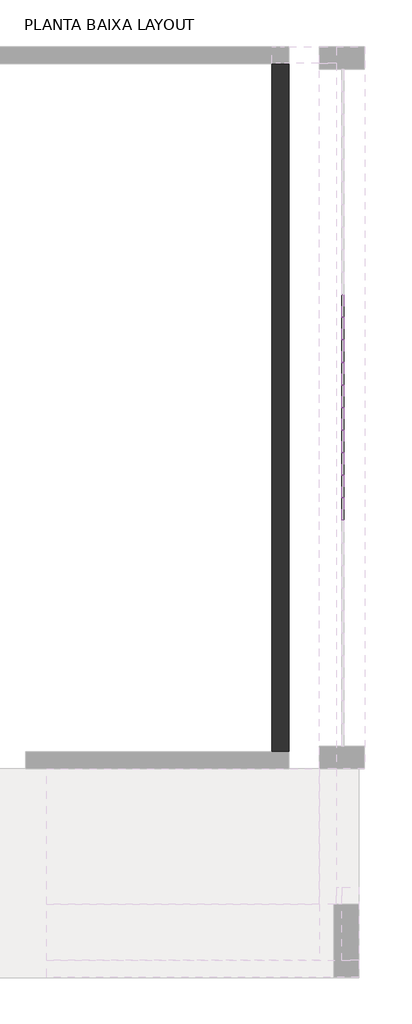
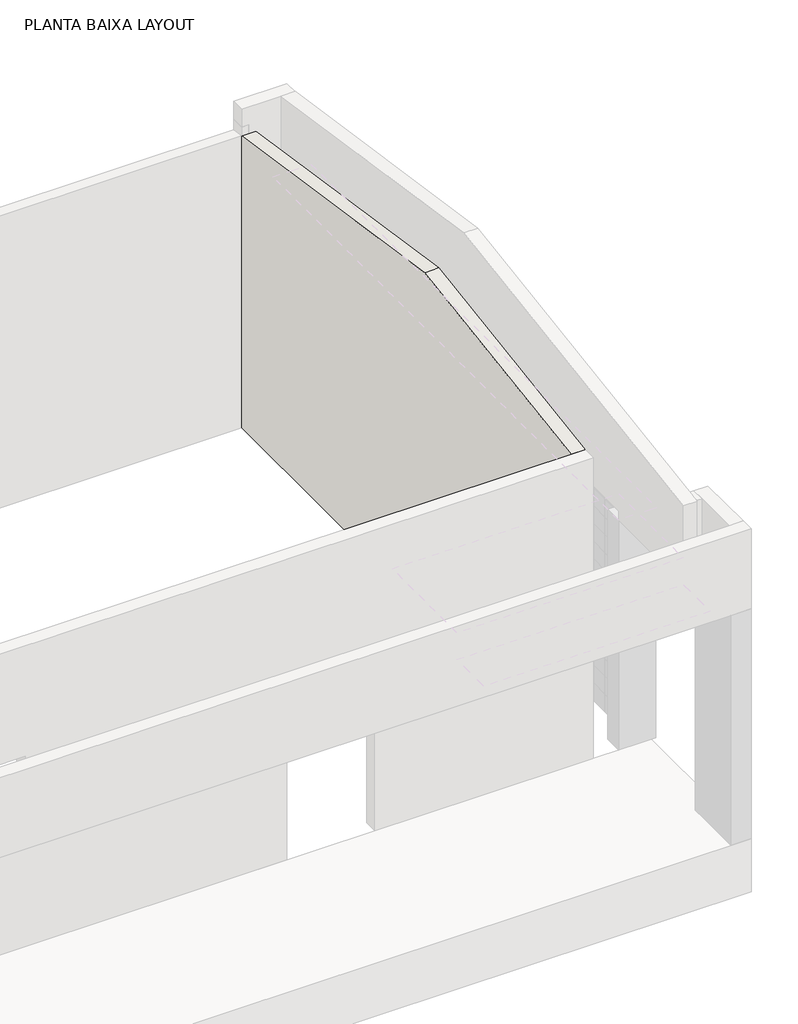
# One storey, part 4 of 6: 122 plates, 1 wall.
"""IFC4 building model written with IfcOpenShell, lengths in millimetres."""

from ifc_helpers import new_model, si_unit, origin, place, context, project, spatial, faceted_brep, transform, mapped, element, save
from components import system_panel_vidro_2cm_d02c202c

model = new_model("IFC4")

# Units and contexts
model_context = context("Model", 3, world=origin())
ifc_project = project(units=[si_unit("LENGTHUNIT", "METRE", prefix="MILLI")], contexts=[model_context])

# Site, building, storey
site = spatial("IfcSite", under=ifc_project)
building = spatial("IfcBuilding", under=site)
storey = spatial("IfcBuildingStorey", under=building, Name="PLANTA BAIXA LAYOUT", Elevation=0.0)

# Plates
placement = place(None, origin())
system_panel_vidro_2cm_shape = system_panel_vidro_2cm_d02c202c(model_context)
element("IfcPlate", 1, ObjectType="System Panel : Vidro 2cm", at=placement, inside=storey, context=model_context, shape_type="MappedRepresentation", body=[
    mapped(system_panel_vidro_2cm_shape, transform((17877.6165906, -4817.0637549, 0.0), x_axis=(0.0, 1.0, 0.0), y_axis=(-1.0, 0.0, 0.0), z_axis=(0.0, 0.0, 1.0))),
])
element("IfcPlate", 2, ObjectType="System Panel : Vidro 2cm", at=placement, inside=storey, context=model_context, shape_type="MappedRepresentation", body=[
    mapped(system_panel_vidro_2cm_shape, transform((17877.6165906, -4617.0637549, 0.0), x_axis=(0.0, 1.0, 0.0), y_axis=(-1.0, 0.0, 0.0), z_axis=(0.0, 0.0, 1.0))),
])
element("IfcPlate", 3, ObjectType="System Panel : Vidro 2cm", at=placement, inside=storey, context=model_context, shape_type="MappedRepresentation", body=[
    mapped(system_panel_vidro_2cm_shape, transform((17877.6165906, -4417.0637549, 0.0), x_axis=(0.0, 1.0, 0.0), y_axis=(-1.0, 0.0, 0.0), z_axis=(0.0, 0.0, 1.0))),
])
element("IfcPlate", 4, ObjectType="System Panel : Vidro 2cm", at=placement, inside=storey, context=model_context, shape_type="MappedRepresentation", body=[
    mapped(system_panel_vidro_2cm_shape, transform((17877.6165906, -4217.0637549, 0.0), x_axis=(0.0, 1.0, 0.0), y_axis=(-1.0, 0.0, 0.0), z_axis=(0.0, 0.0, 1.0))),
])
element("IfcPlate", 5, ObjectType="System Panel : Vidro 2cm", at=placement, inside=storey, context=model_context, shape_type="MappedRepresentation", body=[
    mapped(system_panel_vidro_2cm_shape, transform((17877.6165906, -4017.0637549, 0.0), x_axis=(0.0, 1.0, 0.0), y_axis=(-1.0, 0.0, 0.0), z_axis=(0.0, 0.0, 1.0))),
])
element("IfcPlate", 6, ObjectType="System Panel : Vidro 2cm", at=placement, inside=storey, context=model_context, shape_type="MappedRepresentation", body=[
    mapped(system_panel_vidro_2cm_shape, transform((17877.6165906, -3817.0637549, 0.0), x_axis=(0.0, 1.0, 0.0), y_axis=(-1.0, 0.0, 0.0), z_axis=(0.0, 0.0, 1.0))),
])
element("IfcPlate", 7, ObjectType="System Panel : Vidro 2cm", at=placement, inside=storey, context=model_context, shape_type="MappedRepresentation", body=[
    mapped(system_panel_vidro_2cm_shape, transform((17877.6165906, -3617.0637549, 0.0), x_axis=(0.0, 1.0, 0.0), y_axis=(-1.0, 0.0, 0.0), z_axis=(0.0, 0.0, 1.0))),
])
element("IfcPlate", 8, ObjectType="System Panel : Vidro 2cm", at=placement, inside=storey, context=model_context, shape_type="MappedRepresentation", body=[
    mapped(system_panel_vidro_2cm_shape, transform((17877.6165906, -3417.0637549, 0.0), x_axis=(0.0, 1.0, 0.0), y_axis=(-1.0, 0.0, 0.0), z_axis=(0.0, 0.0, 1.0))),
])
element("IfcPlate", 9, ObjectType="System Panel : Vidro 2cm", at=placement, inside=storey, context=model_context, shape_type="MappedRepresentation", body=[
    mapped(system_panel_vidro_2cm_shape, transform((17877.6165906, -3217.0637549, 0.0), x_axis=(0.0, 1.0, 0.0), y_axis=(-1.0, 0.0, 0.0), z_axis=(0.0, 0.0, 1.0))),
])
element("IfcPlate", 10, ObjectType="System Panel : Vidro 2cm", at=placement, inside=storey, context=model_context, shape_type="MappedRepresentation", body=[
    mapped(system_panel_vidro_2cm_shape, transform((17877.6165906, -3017.0637549, 0.0), x_axis=(0.0, 1.0, 0.0), y_axis=(-1.0, 0.0, 0.0), z_axis=(0.0, 0.0, 1.0))),
])
element("IfcPlate", 11, ObjectType="System Panel : Vidro 2cm", at=placement, inside=storey, context=model_context, shape_type="MappedRepresentation", body=[
    mapped(system_panel_vidro_2cm_shape, transform((17877.6165906, -4817.0637549, 200.0), x_axis=(0.0, 1.0, 0.0), y_axis=(-1.0, 0.0, 0.0), z_axis=(0.0, 0.0, 1.0))),
])
element("IfcPlate", 12, ObjectType="System Panel : Vidro 2cm", at=placement, inside=storey, context=model_context, shape_type="MappedRepresentation", body=[
    mapped(system_panel_vidro_2cm_shape, transform((17877.6165906, -4617.0637549, 200.0), x_axis=(0.0, 1.0, 0.0), y_axis=(-1.0, 0.0, 0.0), z_axis=(0.0, 0.0, 1.0))),
])
element("IfcPlate", 13, ObjectType="System Panel : Vidro 2cm", at=placement, inside=storey, context=model_context, shape_type="MappedRepresentation", body=[
    mapped(system_panel_vidro_2cm_shape, transform((17877.6165906, -4417.0637549, 200.0), x_axis=(0.0, 1.0, 0.0), y_axis=(-1.0, 0.0, 0.0), z_axis=(0.0, 0.0, 1.0))),
])
element("IfcPlate", 14, ObjectType="System Panel : Vidro 2cm", at=placement, inside=storey, context=model_context, shape_type="MappedRepresentation", body=[
    mapped(system_panel_vidro_2cm_shape, transform((17877.6165906, -4217.0637549, 200.0), x_axis=(0.0, 1.0, 0.0), y_axis=(-1.0, 0.0, 0.0), z_axis=(0.0, 0.0, 1.0))),
])
element("IfcPlate", 15, ObjectType="System Panel : Vidro 2cm", at=placement, inside=storey, context=model_context, shape_type="MappedRepresentation", body=[
    mapped(system_panel_vidro_2cm_shape, transform((17877.6165906, -4017.0637549, 200.0), x_axis=(0.0, 1.0, 0.0), y_axis=(-1.0, 0.0, 0.0), z_axis=(0.0, 0.0, 1.0))),
])
element("IfcPlate", 16, ObjectType="System Panel : Vidro 2cm", at=placement, inside=storey, context=model_context, shape_type="MappedRepresentation", body=[
    mapped(system_panel_vidro_2cm_shape, transform((17877.6165906, -3817.0637549, 200.0), x_axis=(0.0, 1.0, 0.0), y_axis=(-1.0, 0.0, 0.0), z_axis=(0.0, 0.0, 1.0))),
])
element("IfcPlate", 17, ObjectType="System Panel : Vidro 2cm", at=placement, inside=storey, context=model_context, shape_type="MappedRepresentation", body=[
    mapped(system_panel_vidro_2cm_shape, transform((17877.6165906, -3617.0637549, 200.0), x_axis=(0.0, 1.0, 0.0), y_axis=(-1.0, 0.0, 0.0), z_axis=(0.0, 0.0, 1.0))),
])
element("IfcPlate", 18, ObjectType="System Panel : Vidro 2cm", at=placement, inside=storey, context=model_context, shape_type="MappedRepresentation", body=[
    mapped(system_panel_vidro_2cm_shape, transform((17877.6165906, -3417.0637549, 200.0), x_axis=(0.0, 1.0, 0.0), y_axis=(-1.0, 0.0, 0.0), z_axis=(0.0, 0.0, 1.0))),
])
element("IfcPlate", 19, ObjectType="System Panel : Vidro 2cm", at=placement, inside=storey, context=model_context, shape_type="MappedRepresentation", body=[
    mapped(system_panel_vidro_2cm_shape, transform((17877.6165906, -4817.0637549, 400.0), x_axis=(0.0, 1.0, 0.0), y_axis=(-1.0, 0.0, 0.0), z_axis=(0.0, 0.0, 1.0))),
])
element("IfcPlate", 20, ObjectType="System Panel : Vidro 2cm", at=placement, inside=storey, context=model_context, shape_type="MappedRepresentation", body=[
    mapped(system_panel_vidro_2cm_shape, transform((17877.6165906, -4617.0637549, 400.0), x_axis=(0.0, 1.0, 0.0), y_axis=(-1.0, 0.0, 0.0), z_axis=(0.0, 0.0, 1.0))),
])
element("IfcPlate", 21, ObjectType="System Panel : Vidro 2cm", at=placement, inside=storey, context=model_context, shape_type="MappedRepresentation", body=[
    mapped(system_panel_vidro_2cm_shape, transform((17877.6165906, -4417.0637549, 400.0), x_axis=(0.0, 1.0, 0.0), y_axis=(-1.0, 0.0, 0.0), z_axis=(0.0, 0.0, 1.0))),
])
element("IfcPlate", 22, ObjectType="System Panel : Vidro 2cm", at=placement, inside=storey, context=model_context, shape_type="MappedRepresentation", body=[
    mapped(system_panel_vidro_2cm_shape, transform((17877.6165906, -4217.0637549, 400.0), x_axis=(0.0, 1.0, 0.0), y_axis=(-1.0, 0.0, 0.0), z_axis=(0.0, 0.0, 1.0))),
])
element("IfcPlate", 23, ObjectType="System Panel : Vidro 2cm", at=placement, inside=storey, context=model_context, shape_type="MappedRepresentation", body=[
    mapped(system_panel_vidro_2cm_shape, transform((17877.6165906, -4017.0637549, 400.0), x_axis=(0.0, 1.0, 0.0), y_axis=(-1.0, 0.0, 0.0), z_axis=(0.0, 0.0, 1.0))),
])
element("IfcPlate", 24, ObjectType="System Panel : Vidro 2cm", at=placement, inside=storey, context=model_context, shape_type="MappedRepresentation", body=[
    mapped(system_panel_vidro_2cm_shape, transform((17877.6165906, -5617.0637549, 600.0), x_axis=(0.0, 1.0, 0.0), y_axis=(-1.0, 0.0, 0.0), z_axis=(0.0, 0.0, 1.0))),
])
element("IfcPlate", 25, ObjectType="System Panel : Vidro 2cm", at=placement, inside=storey, context=model_context, shape_type="MappedRepresentation", body=[
    mapped(system_panel_vidro_2cm_shape, transform((17877.6165906, -5417.0637549, 600.0), x_axis=(0.0, 1.0, 0.0), y_axis=(-1.0, 0.0, 0.0), z_axis=(0.0, 0.0, 1.0))),
])
element("IfcPlate", 26, ObjectType="System Panel : Vidro 2cm", at=placement, inside=storey, context=model_context, shape_type="MappedRepresentation", body=[
    mapped(system_panel_vidro_2cm_shape, transform((17877.6165906, -5217.0637549, 600.0), x_axis=(0.0, 1.0, 0.0), y_axis=(-1.0, 0.0, 0.0), z_axis=(0.0, 0.0, 1.0))),
])
element("IfcPlate", 27, ObjectType="System Panel : Vidro 2cm", at=placement, inside=storey, context=model_context, shape_type="MappedRepresentation", body=[
    mapped(system_panel_vidro_2cm_shape, transform((17877.6165906, -5017.0637549, 600.0), x_axis=(0.0, 1.0, 0.0), y_axis=(-1.0, 0.0, 0.0), z_axis=(0.0, 0.0, 1.0))),
])
element("IfcPlate", 28, ObjectType="System Panel : Vidro 2cm", at=placement, inside=storey, context=model_context, shape_type="MappedRepresentation", body=[
    mapped(system_panel_vidro_2cm_shape, transform((17877.6165906, -4817.0637549, 600.0), x_axis=(0.0, 1.0, 0.0), y_axis=(-1.0, 0.0, 0.0), z_axis=(0.0, 0.0, 1.0))),
])
element("IfcPlate", 29, ObjectType="System Panel : Vidro 2cm", at=placement, inside=storey, context=model_context, shape_type="MappedRepresentation", body=[
    mapped(system_panel_vidro_2cm_shape, transform((17877.6165906, -4617.0637549, 600.0), x_axis=(0.0, 1.0, 0.0), y_axis=(-1.0, 0.0, 0.0), z_axis=(0.0, 0.0, 1.0))),
])
element("IfcPlate", 30, ObjectType="System Panel : Vidro 2cm", at=placement, inside=storey, context=model_context, shape_type="MappedRepresentation", body=[
    mapped(system_panel_vidro_2cm_shape, transform((17877.6165906, -4417.0637549, 600.0), x_axis=(0.0, 1.0, 0.0), y_axis=(-1.0, 0.0, 0.0), z_axis=(0.0, 0.0, 1.0))),
])
element("IfcPlate", 31, ObjectType="System Panel : Vidro 2cm", at=placement, inside=storey, context=model_context, shape_type="MappedRepresentation", body=[
    mapped(system_panel_vidro_2cm_shape, transform((17877.6165906, -4217.0637549, 600.0), x_axis=(0.0, 1.0, 0.0), y_axis=(-1.0, 0.0, 0.0), z_axis=(0.0, 0.0, 1.0))),
])
element("IfcPlate", 32, ObjectType="System Panel : Vidro 2cm", at=placement, inside=storey, context=model_context, shape_type="MappedRepresentation", body=[
    mapped(system_panel_vidro_2cm_shape, transform((17877.6165906, -4017.0637549, 600.0), x_axis=(0.0, 1.0, 0.0), y_axis=(-1.0, 0.0, 0.0), z_axis=(0.0, 0.0, 1.0))),
])
element("IfcPlate", 33, ObjectType="System Panel : Vidro 2cm", at=placement, inside=storey, context=model_context, shape_type="MappedRepresentation", body=[
    mapped(system_panel_vidro_2cm_shape, transform((17877.6165906, -5817.0637549, 800.0), x_axis=(0.0, 1.0, 0.0), y_axis=(-1.0, 0.0, 0.0), z_axis=(0.0, 0.0, 1.0))),
])
element("IfcPlate", 34, ObjectType="System Panel : Vidro 2cm", at=placement, inside=storey, context=model_context, shape_type="MappedRepresentation", body=[
    mapped(system_panel_vidro_2cm_shape, transform((17877.6165906, -5617.0637549, 800.0), x_axis=(0.0, 1.0, 0.0), y_axis=(-1.0, 0.0, 0.0), z_axis=(0.0, 0.0, 1.0))),
])
element("IfcPlate", 35, ObjectType="System Panel : Vidro 2cm", at=placement, inside=storey, context=model_context, shape_type="MappedRepresentation", body=[
    mapped(system_panel_vidro_2cm_shape, transform((17877.6165906, -5417.0637549, 800.0), x_axis=(0.0, 1.0, 0.0), y_axis=(-1.0, 0.0, 0.0), z_axis=(0.0, 0.0, 1.0))),
])
element("IfcPlate", 36, ObjectType="System Panel : Vidro 2cm", at=placement, inside=storey, context=model_context, shape_type="MappedRepresentation", body=[
    mapped(system_panel_vidro_2cm_shape, transform((17877.6165906, -5217.0637549, 800.0), x_axis=(0.0, 1.0, 0.0), y_axis=(-1.0, 0.0, 0.0), z_axis=(0.0, 0.0, 1.0))),
])
element("IfcPlate", 37, ObjectType="System Panel : Vidro 2cm", at=placement, inside=storey, context=model_context, shape_type="MappedRepresentation", body=[
    mapped(system_panel_vidro_2cm_shape, transform((17877.6165906, -5017.0637549, 800.0), x_axis=(0.0, 1.0, 0.0), y_axis=(-1.0, 0.0, 0.0), z_axis=(0.0, 0.0, 1.0))),
])
element("IfcPlate", 38, ObjectType="System Panel : Vidro 2cm", at=placement, inside=storey, context=model_context, shape_type="MappedRepresentation", body=[
    mapped(system_panel_vidro_2cm_shape, transform((17877.6165906, -4817.0637549, 800.0), x_axis=(0.0, 1.0, 0.0), y_axis=(-1.0, 0.0, 0.0), z_axis=(0.0, 0.0, 1.0))),
])
element("IfcPlate", 39, ObjectType="System Panel : Vidro 2cm", at=placement, inside=storey, context=model_context, shape_type="MappedRepresentation", body=[
    mapped(system_panel_vidro_2cm_shape, transform((17877.6165906, -4617.0637549, 800.0), x_axis=(0.0, 1.0, 0.0), y_axis=(-1.0, 0.0, 0.0), z_axis=(0.0, 0.0, 1.0))),
])
element("IfcPlate", 40, ObjectType="System Panel : Vidro 2cm", at=placement, inside=storey, context=model_context, shape_type="MappedRepresentation", body=[
    mapped(system_panel_vidro_2cm_shape, transform((17877.6165906, -4417.0637549, 800.0), x_axis=(0.0, 1.0, 0.0), y_axis=(-1.0, 0.0, 0.0), z_axis=(0.0, 0.0, 1.0))),
])
element("IfcPlate", 41, ObjectType="System Panel : Vidro 2cm", at=placement, inside=storey, context=model_context, shape_type="MappedRepresentation", body=[
    mapped(system_panel_vidro_2cm_shape, transform((17877.6165906, -4217.0637549, 800.0), x_axis=(0.0, 1.0, 0.0), y_axis=(-1.0, 0.0, 0.0), z_axis=(0.0, 0.0, 1.0))),
])
element("IfcPlate", 42, ObjectType="System Panel : Vidro 2cm", at=placement, inside=storey, context=model_context, shape_type="MappedRepresentation", body=[
    mapped(system_panel_vidro_2cm_shape, transform((17877.6165906, -4017.0637549, 800.0), x_axis=(0.0, 1.0, 0.0), y_axis=(-1.0, 0.0, 0.0), z_axis=(0.0, 0.0, 1.0))),
])
element("IfcPlate", 43, ObjectType="System Panel : Vidro 2cm", at=placement, inside=storey, context=model_context, shape_type="MappedRepresentation", body=[
    mapped(system_panel_vidro_2cm_shape, transform((17877.6165906, -5817.0637549, 1000.0), x_axis=(0.0, 1.0, 0.0), y_axis=(-1.0, 0.0, 0.0), z_axis=(0.0, 0.0, 1.0))),
])
element("IfcPlate", 44, ObjectType="System Panel : Vidro 2cm", at=placement, inside=storey, context=model_context, shape_type="MappedRepresentation", body=[
    mapped(system_panel_vidro_2cm_shape, transform((17877.6165906, -5617.0637549, 1000.0), x_axis=(0.0, 1.0, 0.0), y_axis=(-1.0, 0.0, 0.0), z_axis=(0.0, 0.0, 1.0))),
])
element("IfcPlate", 45, ObjectType="System Panel : Vidro 2cm", at=placement, inside=storey, context=model_context, shape_type="MappedRepresentation", body=[
    mapped(system_panel_vidro_2cm_shape, transform((17877.6165906, -5417.0637549, 1000.0), x_axis=(0.0, 1.0, 0.0), y_axis=(-1.0, 0.0, 0.0), z_axis=(0.0, 0.0, 1.0))),
])
element("IfcPlate", 46, ObjectType="System Panel : Vidro 2cm", at=placement, inside=storey, context=model_context, shape_type="MappedRepresentation", body=[
    mapped(system_panel_vidro_2cm_shape, transform((17877.6165906, -5217.0637549, 1000.0), x_axis=(0.0, 1.0, 0.0), y_axis=(-1.0, 0.0, 0.0), z_axis=(0.0, 0.0, 1.0))),
])
element("IfcPlate", 47, ObjectType="System Panel : Vidro 2cm", at=placement, inside=storey, context=model_context, shape_type="MappedRepresentation", body=[
    mapped(system_panel_vidro_2cm_shape, transform((17877.6165906, -5017.0637549, 1000.0), x_axis=(0.0, 1.0, 0.0), y_axis=(-1.0, 0.0, 0.0), z_axis=(0.0, 0.0, 1.0))),
])
element("IfcPlate", 48, ObjectType="System Panel : Vidro 2cm", at=placement, inside=storey, context=model_context, shape_type="MappedRepresentation", body=[
    mapped(system_panel_vidro_2cm_shape, transform((17877.6165906, -4817.0637549, 1000.0), x_axis=(0.0, 1.0, 0.0), y_axis=(-1.0, 0.0, 0.0), z_axis=(0.0, 0.0, 1.0))),
])
element("IfcPlate", 49, ObjectType="System Panel : Vidro 2cm", at=placement, inside=storey, context=model_context, shape_type="MappedRepresentation", body=[
    mapped(system_panel_vidro_2cm_shape, transform((17877.6165906, -4617.0637549, 1000.0), x_axis=(0.0, 1.0, 0.0), y_axis=(-1.0, 0.0, 0.0), z_axis=(0.0, 0.0, 1.0))),
])
element("IfcPlate", 50, ObjectType="System Panel : Vidro 2cm", at=placement, inside=storey, context=model_context, shape_type="MappedRepresentation", body=[
    mapped(system_panel_vidro_2cm_shape, transform((17877.6165906, -4417.0637549, 1000.0), x_axis=(0.0, 1.0, 0.0), y_axis=(-1.0, 0.0, 0.0), z_axis=(0.0, 0.0, 1.0))),
])
element("IfcPlate", 51, ObjectType="System Panel : Vidro 2cm", at=placement, inside=storey, context=model_context, shape_type="MappedRepresentation", body=[
    mapped(system_panel_vidro_2cm_shape, transform((17877.6165906, -4217.0637549, 1000.0), x_axis=(0.0, 1.0, 0.0), y_axis=(-1.0, 0.0, 0.0), z_axis=(0.0, 0.0, 1.0))),
])
element("IfcPlate", 52, ObjectType="System Panel : Vidro 2cm", at=placement, inside=storey, context=model_context, shape_type="MappedRepresentation", body=[
    mapped(system_panel_vidro_2cm_shape, transform((17877.6165906, -4017.0637549, 1000.0), x_axis=(0.0, 1.0, 0.0), y_axis=(-1.0, 0.0, 0.0), z_axis=(0.0, 0.0, 1.0))),
])
element("IfcPlate", 53, ObjectType="System Panel : Vidro 2cm", at=placement, inside=storey, context=model_context, shape_type="MappedRepresentation", body=[
    mapped(system_panel_vidro_2cm_shape, transform((17877.6165906, -5817.0637549, 1200.0), x_axis=(0.0, 1.0, 0.0), y_axis=(-1.0, 0.0, 0.0), z_axis=(0.0, 0.0, 1.0))),
])
element("IfcPlate", 54, ObjectType="System Panel : Vidro 2cm", at=placement, inside=storey, context=model_context, shape_type="MappedRepresentation", body=[
    mapped(system_panel_vidro_2cm_shape, transform((17877.6165906, -5617.0637549, 1200.0), x_axis=(0.0, 1.0, 0.0), y_axis=(-1.0, 0.0, 0.0), z_axis=(0.0, 0.0, 1.0))),
])
element("IfcPlate", 55, ObjectType="System Panel : Vidro 2cm", at=placement, inside=storey, context=model_context, shape_type="MappedRepresentation", body=[
    mapped(system_panel_vidro_2cm_shape, transform((17877.6165906, -5417.0637549, 1200.0), x_axis=(0.0, 1.0, 0.0), y_axis=(-1.0, 0.0, 0.0), z_axis=(0.0, 0.0, 1.0))),
])
element("IfcPlate", 56, ObjectType="System Panel : Vidro 2cm", at=placement, inside=storey, context=model_context, shape_type="MappedRepresentation", body=[
    mapped(system_panel_vidro_2cm_shape, transform((17877.6165906, -5217.0637549, 1200.0), x_axis=(0.0, 1.0, 0.0), y_axis=(-1.0, 0.0, 0.0), z_axis=(0.0, 0.0, 1.0))),
])
element("IfcPlate", 57, ObjectType="System Panel : Vidro 2cm", at=placement, inside=storey, context=model_context, shape_type="MappedRepresentation", body=[
    mapped(system_panel_vidro_2cm_shape, transform((17877.6165906, -5017.0637549, 1200.0), x_axis=(0.0, 1.0, 0.0), y_axis=(-1.0, 0.0, 0.0), z_axis=(0.0, 0.0, 1.0))),
])
element("IfcPlate", 58, ObjectType="System Panel : Vidro 2cm", at=placement, inside=storey, context=model_context, shape_type="MappedRepresentation", body=[
    mapped(system_panel_vidro_2cm_shape, transform((17877.6165906, -4817.0637549, 1200.0), x_axis=(0.0, 1.0, 0.0), y_axis=(-1.0, 0.0, 0.0), z_axis=(0.0, 0.0, 1.0))),
])
element("IfcPlate", 59, ObjectType="System Panel : Vidro 2cm", at=placement, inside=storey, context=model_context, shape_type="MappedRepresentation", body=[
    mapped(system_panel_vidro_2cm_shape, transform((17877.6165906, -4617.0637549, 1200.0), x_axis=(0.0, 1.0, 0.0), y_axis=(-1.0, 0.0, 0.0), z_axis=(0.0, 0.0, 1.0))),
])
element("IfcPlate", 60, ObjectType="System Panel : Vidro 2cm", at=placement, inside=storey, context=model_context, shape_type="MappedRepresentation", body=[
    mapped(system_panel_vidro_2cm_shape, transform((17877.6165906, -4417.0637549, 1200.0), x_axis=(0.0, 1.0, 0.0), y_axis=(-1.0, 0.0, 0.0), z_axis=(0.0, 0.0, 1.0))),
])
element("IfcPlate", 61, ObjectType="System Panel : Vidro 2cm", at=placement, inside=storey, context=model_context, shape_type="MappedRepresentation", body=[
    mapped(system_panel_vidro_2cm_shape, transform((17877.6165906, -4217.0637549, 1200.0), x_axis=(0.0, 1.0, 0.0), y_axis=(-1.0, 0.0, 0.0), z_axis=(0.0, 0.0, 1.0))),
])
element("IfcPlate", 62, ObjectType="System Panel : Vidro 2cm", at=placement, inside=storey, context=model_context, shape_type="MappedRepresentation", body=[
    mapped(system_panel_vidro_2cm_shape, transform((17877.6165906, -4017.0637549, 1200.0), x_axis=(0.0, 1.0, 0.0), y_axis=(-1.0, 0.0, 0.0), z_axis=(0.0, 0.0, 1.0))),
])
element("IfcPlate", 63, ObjectType="System Panel : Vidro 2cm", at=placement, inside=storey, context=model_context, shape_type="MappedRepresentation", body=[
    mapped(system_panel_vidro_2cm_shape, transform((17877.6165906, -5817.0637549, 1400.0), x_axis=(0.0, 1.0, 0.0), y_axis=(-1.0, 0.0, 0.0), z_axis=(0.0, 0.0, 1.0))),
])
element("IfcPlate", 64, ObjectType="System Panel : Vidro 2cm", at=placement, inside=storey, context=model_context, shape_type="MappedRepresentation", body=[
    mapped(system_panel_vidro_2cm_shape, transform((17877.6165906, -5617.0637549, 1400.0), x_axis=(0.0, 1.0, 0.0), y_axis=(-1.0, 0.0, 0.0), z_axis=(0.0, 0.0, 1.0))),
])
element("IfcPlate", 65, ObjectType="System Panel : Vidro 2cm", at=placement, inside=storey, context=model_context, shape_type="MappedRepresentation", body=[
    mapped(system_panel_vidro_2cm_shape, transform((17877.6165906, -5417.0637549, 1400.0), x_axis=(0.0, 1.0, 0.0), y_axis=(-1.0, 0.0, 0.0), z_axis=(0.0, 0.0, 1.0))),
])
element("IfcPlate", 66, ObjectType="System Panel : Vidro 2cm", at=placement, inside=storey, context=model_context, shape_type="MappedRepresentation", body=[
    mapped(system_panel_vidro_2cm_shape, transform((17877.6165906, -5217.0637549, 1400.0), x_axis=(0.0, 1.0, 0.0), y_axis=(-1.0, 0.0, 0.0), z_axis=(0.0, 0.0, 1.0))),
])
element("IfcPlate", 67, ObjectType="System Panel : Vidro 2cm", at=placement, inside=storey, context=model_context, shape_type="MappedRepresentation", body=[
    mapped(system_panel_vidro_2cm_shape, transform((17877.6165906, -5017.0637549, 1400.0), x_axis=(0.0, 1.0, 0.0), y_axis=(-1.0, 0.0, 0.0), z_axis=(0.0, 0.0, 1.0))),
])
element("IfcPlate", 68, ObjectType="System Panel : Vidro 2cm", at=placement, inside=storey, context=model_context, shape_type="MappedRepresentation", body=[
    mapped(system_panel_vidro_2cm_shape, transform((17877.6165906, -4817.0637549, 1400.0), x_axis=(0.0, 1.0, 0.0), y_axis=(-1.0, 0.0, 0.0), z_axis=(0.0, 0.0, 1.0))),
])
element("IfcPlate", 69, ObjectType="System Panel : Vidro 2cm", at=placement, inside=storey, context=model_context, shape_type="MappedRepresentation", body=[
    mapped(system_panel_vidro_2cm_shape, transform((17877.6165906, -4617.0637549, 1400.0), x_axis=(0.0, 1.0, 0.0), y_axis=(-1.0, 0.0, 0.0), z_axis=(0.0, 0.0, 1.0))),
])
element("IfcPlate", 70, ObjectType="System Panel : Vidro 2cm", at=placement, inside=storey, context=model_context, shape_type="MappedRepresentation", body=[
    mapped(system_panel_vidro_2cm_shape, transform((17877.6165906, -4417.0637549, 1400.0), x_axis=(0.0, 1.0, 0.0), y_axis=(-1.0, 0.0, 0.0), z_axis=(0.0, 0.0, 1.0))),
])
element("IfcPlate", 71, ObjectType="System Panel : Vidro 2cm", at=placement, inside=storey, context=model_context, shape_type="MappedRepresentation", body=[
    mapped(system_panel_vidro_2cm_shape, transform((17877.6165906, -4217.0637549, 1400.0), x_axis=(0.0, 1.0, 0.0), y_axis=(-1.0, 0.0, 0.0), z_axis=(0.0, 0.0, 1.0))),
])
element("IfcPlate", 72, ObjectType="System Panel : Vidro 2cm", at=placement, inside=storey, context=model_context, shape_type="MappedRepresentation", body=[
    mapped(system_panel_vidro_2cm_shape, transform((17877.6165906, -4017.0637549, 1400.0), x_axis=(0.0, 1.0, 0.0), y_axis=(-1.0, 0.0, 0.0), z_axis=(0.0, 0.0, 1.0))),
])
element("IfcPlate", 73, ObjectType="System Panel : Vidro 2cm", at=placement, inside=storey, context=model_context, shape_type="MappedRepresentation", body=[
    mapped(system_panel_vidro_2cm_shape, transform((17877.6165906, -5817.0637549, 1600.0), x_axis=(0.0, 1.0, 0.0), y_axis=(-1.0, 0.0, 0.0), z_axis=(0.0, 0.0, 1.0))),
])
element("IfcPlate", 74, ObjectType="System Panel : Vidro 2cm", at=placement, inside=storey, context=model_context, shape_type="MappedRepresentation", body=[
    mapped(system_panel_vidro_2cm_shape, transform((17877.6165906, -5617.0637549, 1600.0), x_axis=(0.0, 1.0, 0.0), y_axis=(-1.0, 0.0, 0.0), z_axis=(0.0, 0.0, 1.0))),
])
element("IfcPlate", 75, ObjectType="System Panel : Vidro 2cm", at=placement, inside=storey, context=model_context, shape_type="MappedRepresentation", body=[
    mapped(system_panel_vidro_2cm_shape, transform((17877.6165906, -5417.0637549, 1600.0), x_axis=(0.0, 1.0, 0.0), y_axis=(-1.0, 0.0, 0.0), z_axis=(0.0, 0.0, 1.0))),
])
element("IfcPlate", 76, ObjectType="System Panel : Vidro 2cm", at=placement, inside=storey, context=model_context, shape_type="MappedRepresentation", body=[
    mapped(system_panel_vidro_2cm_shape, transform((17877.6165906, -5217.0637549, 1600.0), x_axis=(0.0, 1.0, 0.0), y_axis=(-1.0, 0.0, 0.0), z_axis=(0.0, 0.0, 1.0))),
])
element("IfcPlate", 77, ObjectType="System Panel : Vidro 2cm", at=placement, inside=storey, context=model_context, shape_type="MappedRepresentation", body=[
    mapped(system_panel_vidro_2cm_shape, transform((17877.6165906, -5017.0637549, 1600.0), x_axis=(0.0, 1.0, 0.0), y_axis=(-1.0, 0.0, 0.0), z_axis=(0.0, 0.0, 1.0))),
])
element("IfcPlate", 78, ObjectType="System Panel : Vidro 2cm", at=placement, inside=storey, context=model_context, shape_type="MappedRepresentation", body=[
    mapped(system_panel_vidro_2cm_shape, transform((17877.6165906, -4817.0637549, 1600.0), x_axis=(0.0, 1.0, 0.0), y_axis=(-1.0, 0.0, 0.0), z_axis=(0.0, 0.0, 1.0))),
])
element("IfcPlate", 79, ObjectType="System Panel : Vidro 2cm", at=placement, inside=storey, context=model_context, shape_type="MappedRepresentation", body=[
    mapped(system_panel_vidro_2cm_shape, transform((17877.6165906, -4617.0637549, 1600.0), x_axis=(0.0, 1.0, 0.0), y_axis=(-1.0, 0.0, 0.0), z_axis=(0.0, 0.0, 1.0))),
])
element("IfcPlate", 80, ObjectType="System Panel : Vidro 2cm", at=placement, inside=storey, context=model_context, shape_type="MappedRepresentation", body=[
    mapped(system_panel_vidro_2cm_shape, transform((17877.6165906, -4417.0637549, 1600.0), x_axis=(0.0, 1.0, 0.0), y_axis=(-1.0, 0.0, 0.0), z_axis=(0.0, 0.0, 1.0))),
])
element("IfcPlate", 81, ObjectType="System Panel : Vidro 2cm", at=placement, inside=storey, context=model_context, shape_type="MappedRepresentation", body=[
    mapped(system_panel_vidro_2cm_shape, transform((17877.6165906, -4217.0637549, 1600.0), x_axis=(0.0, 1.0, 0.0), y_axis=(-1.0, 0.0, 0.0), z_axis=(0.0, 0.0, 1.0))),
])
element("IfcPlate", 82, ObjectType="System Panel : Vidro 2cm", at=placement, inside=storey, context=model_context, shape_type="MappedRepresentation", body=[
    mapped(system_panel_vidro_2cm_shape, transform((17877.6165906, -4017.0637549, 1600.0), x_axis=(0.0, 1.0, 0.0), y_axis=(-1.0, 0.0, 0.0), z_axis=(0.0, 0.0, 1.0))),
])
element("IfcPlate", 83, ObjectType="System Panel : Vidro 2cm", at=placement, inside=storey, context=model_context, shape_type="MappedRepresentation", body=[
    mapped(system_panel_vidro_2cm_shape, transform((17877.6165906, -5817.0637549, 1800.0), x_axis=(0.0, 1.0, 0.0), y_axis=(-1.0, 0.0, 0.0), z_axis=(0.0, 0.0, 1.0))),
])
element("IfcPlate", 84, ObjectType="System Panel : Vidro 2cm", at=placement, inside=storey, context=model_context, shape_type="MappedRepresentation", body=[
    mapped(system_panel_vidro_2cm_shape, transform((17877.6165906, -5617.0637549, 1800.0), x_axis=(0.0, 1.0, 0.0), y_axis=(-1.0, 0.0, 0.0), z_axis=(0.0, 0.0, 1.0))),
])
element("IfcPlate", 85, ObjectType="System Panel : Vidro 2cm", at=placement, inside=storey, context=model_context, shape_type="MappedRepresentation", body=[
    mapped(system_panel_vidro_2cm_shape, transform((17877.6165906, -5417.0637549, 1800.0), x_axis=(0.0, 1.0, 0.0), y_axis=(-1.0, 0.0, 0.0), z_axis=(0.0, 0.0, 1.0))),
])
element("IfcPlate", 86, ObjectType="System Panel : Vidro 2cm", at=placement, inside=storey, context=model_context, shape_type="MappedRepresentation", body=[
    mapped(system_panel_vidro_2cm_shape, transform((17877.6165906, -5217.0637549, 1800.0), x_axis=(0.0, 1.0, 0.0), y_axis=(-1.0, 0.0, 0.0), z_axis=(0.0, 0.0, 1.0))),
])
element("IfcPlate", 87, ObjectType="System Panel : Vidro 2cm", at=placement, inside=storey, context=model_context, shape_type="MappedRepresentation", body=[
    mapped(system_panel_vidro_2cm_shape, transform((17877.6165906, -5017.0637549, 1800.0), x_axis=(0.0, 1.0, 0.0), y_axis=(-1.0, 0.0, 0.0), z_axis=(0.0, 0.0, 1.0))),
])
element("IfcPlate", 88, ObjectType="System Panel : Vidro 2cm", at=placement, inside=storey, context=model_context, shape_type="MappedRepresentation", body=[
    mapped(system_panel_vidro_2cm_shape, transform((17877.6165906, -4817.0637549, 1800.0), x_axis=(0.0, 1.0, 0.0), y_axis=(-1.0, 0.0, 0.0), z_axis=(0.0, 0.0, 1.0))),
])
element("IfcPlate", 89, ObjectType="System Panel : Vidro 2cm", at=placement, inside=storey, context=model_context, shape_type="MappedRepresentation", body=[
    mapped(system_panel_vidro_2cm_shape, transform((17877.6165906, -4617.0637549, 1800.0), x_axis=(0.0, 1.0, 0.0), y_axis=(-1.0, 0.0, 0.0), z_axis=(0.0, 0.0, 1.0))),
])
element("IfcPlate", 90, ObjectType="System Panel : Vidro 2cm", at=placement, inside=storey, context=model_context, shape_type="MappedRepresentation", body=[
    mapped(system_panel_vidro_2cm_shape, transform((17877.6165906, -4417.0637549, 1800.0), x_axis=(0.0, 1.0, 0.0), y_axis=(-1.0, 0.0, 0.0), z_axis=(0.0, 0.0, 1.0))),
])
element("IfcPlate", 91, ObjectType="System Panel : Vidro 2cm", at=placement, inside=storey, context=model_context, shape_type="MappedRepresentation", body=[
    mapped(system_panel_vidro_2cm_shape, transform((17877.6165906, -4217.0637549, 1800.0), x_axis=(0.0, 1.0, 0.0), y_axis=(-1.0, 0.0, 0.0), z_axis=(0.0, 0.0, 1.0))),
])
element("IfcPlate", 92, ObjectType="System Panel : Vidro 2cm", at=placement, inside=storey, context=model_context, shape_type="MappedRepresentation", body=[
    mapped(system_panel_vidro_2cm_shape, transform((17877.6165906, -4017.0637549, 1800.0), x_axis=(0.0, 1.0, 0.0), y_axis=(-1.0, 0.0, 0.0), z_axis=(0.0, 0.0, 1.0))),
])
element("IfcPlate", 93, ObjectType="System Panel : Vidro 2cm", at=placement, inside=storey, context=model_context, shape_type="MappedRepresentation", body=[
    mapped(system_panel_vidro_2cm_shape, transform((17877.6165906, -5817.0637549, 2000.0), x_axis=(0.0, 1.0, 0.0), y_axis=(-1.0, 0.0, 0.0), z_axis=(0.0, 0.0, 1.0))),
])
element("IfcPlate", 94, ObjectType="System Panel : Vidro 2cm", at=placement, inside=storey, context=model_context, shape_type="MappedRepresentation", body=[
    mapped(system_panel_vidro_2cm_shape, transform((17877.6165906, -5617.0637549, 2000.0), x_axis=(0.0, 1.0, 0.0), y_axis=(-1.0, 0.0, 0.0), z_axis=(0.0, 0.0, 1.0))),
])
element("IfcPlate", 95, ObjectType="System Panel : Vidro 2cm", at=placement, inside=storey, context=model_context, shape_type="MappedRepresentation", body=[
    mapped(system_panel_vidro_2cm_shape, transform((17877.6165906, -5417.0637549, 2000.0), x_axis=(0.0, 1.0, 0.0), y_axis=(-1.0, 0.0, 0.0), z_axis=(0.0, 0.0, 1.0))),
])
element("IfcPlate", 96, ObjectType="System Panel : Vidro 2cm", at=placement, inside=storey, context=model_context, shape_type="MappedRepresentation", body=[
    mapped(system_panel_vidro_2cm_shape, transform((17877.6165906, -5217.0637549, 2000.0), x_axis=(0.0, 1.0, 0.0), y_axis=(-1.0, 0.0, 0.0), z_axis=(0.0, 0.0, 1.0))),
])
element("IfcPlate", 97, ObjectType="System Panel : Vidro 2cm", at=placement, inside=storey, context=model_context, shape_type="MappedRepresentation", body=[
    mapped(system_panel_vidro_2cm_shape, transform((17877.6165906, -5017.0637549, 2000.0), x_axis=(0.0, 1.0, 0.0), y_axis=(-1.0, 0.0, 0.0), z_axis=(0.0, 0.0, 1.0))),
])
element("IfcPlate", 98, ObjectType="System Panel : Vidro 2cm", at=placement, inside=storey, context=model_context, shape_type="MappedRepresentation", body=[
    mapped(system_panel_vidro_2cm_shape, transform((17877.6165906, -4817.0637549, 2000.0), x_axis=(0.0, 1.0, 0.0), y_axis=(-1.0, 0.0, 0.0), z_axis=(0.0, 0.0, 1.0))),
])
element("IfcPlate", 99, ObjectType="System Panel : Vidro 2cm", at=placement, inside=storey, context=model_context, shape_type="MappedRepresentation", body=[
    mapped(system_panel_vidro_2cm_shape, transform((17877.6165906, -4617.0637549, 2000.0), x_axis=(0.0, 1.0, 0.0), y_axis=(-1.0, 0.0, 0.0), z_axis=(0.0, 0.0, 1.0))),
])
element("IfcPlate", 100, ObjectType="System Panel : Vidro 2cm", at=placement, inside=storey, context=model_context, shape_type="MappedRepresentation", body=[
    mapped(system_panel_vidro_2cm_shape, transform((17877.6165906, -4417.0637549, 2000.0), x_axis=(0.0, 1.0, 0.0), y_axis=(-1.0, 0.0, 0.0), z_axis=(0.0, 0.0, 1.0))),
])
element("IfcPlate", 101, ObjectType="System Panel : Vidro 2cm", at=placement, inside=storey, context=model_context, shape_type="MappedRepresentation", body=[
    mapped(system_panel_vidro_2cm_shape, transform((17877.6165906, -4217.0637549, 2000.0), x_axis=(0.0, 1.0, 0.0), y_axis=(-1.0, 0.0, 0.0), z_axis=(0.0, 0.0, 1.0))),
])
element("IfcPlate", 102, ObjectType="System Panel : Vidro 2cm", at=placement, inside=storey, context=model_context, shape_type="MappedRepresentation", body=[
    mapped(system_panel_vidro_2cm_shape, transform((17877.6165906, -4017.0637549, 2000.0), x_axis=(0.0, 1.0, 0.0), y_axis=(-1.0, 0.0, 0.0), z_axis=(0.0, 0.0, 1.0))),
])
element("IfcPlate", 103, ObjectType="System Panel : Vidro 2cm", at=placement, inside=storey, context=model_context, shape_type="MappedRepresentation", body=[
    mapped(system_panel_vidro_2cm_shape, transform((17877.6165906, -5817.0637549, 2200.0), x_axis=(0.0, 1.0, 0.0), y_axis=(-1.0, 0.0, 0.0), z_axis=(0.0, 0.0, 1.0))),
])
element("IfcPlate", 104, ObjectType="System Panel : Vidro 2cm", at=placement, inside=storey, context=model_context, shape_type="MappedRepresentation", body=[
    mapped(system_panel_vidro_2cm_shape, transform((17877.6165906, -5617.0637549, 2200.0), x_axis=(0.0, 1.0, 0.0), y_axis=(-1.0, 0.0, 0.0), z_axis=(0.0, 0.0, 1.0))),
])
element("IfcPlate", 105, ObjectType="System Panel : Vidro 2cm", at=placement, inside=storey, context=model_context, shape_type="MappedRepresentation", body=[
    mapped(system_panel_vidro_2cm_shape, transform((17877.6165906, -5417.0637549, 2200.0), x_axis=(0.0, 1.0, 0.0), y_axis=(-1.0, 0.0, 0.0), z_axis=(0.0, 0.0, 1.0))),
])
element("IfcPlate", 106, ObjectType="System Panel : Vidro 2cm", at=placement, inside=storey, context=model_context, shape_type="MappedRepresentation", body=[
    mapped(system_panel_vidro_2cm_shape, transform((17877.6165906, -5217.0637549, 2200.0), x_axis=(0.0, 1.0, 0.0), y_axis=(-1.0, 0.0, 0.0), z_axis=(0.0, 0.0, 1.0))),
])
element("IfcPlate", 107, ObjectType="System Panel : Vidro 2cm", at=placement, inside=storey, context=model_context, shape_type="MappedRepresentation", body=[
    mapped(system_panel_vidro_2cm_shape, transform((17877.6165906, -5017.0637549, 2200.0), x_axis=(0.0, 1.0, 0.0), y_axis=(-1.0, 0.0, 0.0), z_axis=(0.0, 0.0, 1.0))),
])
element("IfcPlate", 108, ObjectType="System Panel : Vidro 2cm", at=placement, inside=storey, context=model_context, shape_type="MappedRepresentation", body=[
    mapped(system_panel_vidro_2cm_shape, transform((17877.6165906, -4817.0637549, 2200.0), x_axis=(0.0, 1.0, 0.0), y_axis=(-1.0, 0.0, 0.0), z_axis=(0.0, 0.0, 1.0))),
])
element("IfcPlate", 109, ObjectType="System Panel : Vidro 2cm", at=placement, inside=storey, context=model_context, shape_type="MappedRepresentation", body=[
    mapped(system_panel_vidro_2cm_shape, transform((17877.6165906, -4617.0637549, 2200.0), x_axis=(0.0, 1.0, 0.0), y_axis=(-1.0, 0.0, 0.0), z_axis=(0.0, 0.0, 1.0))),
])
element("IfcPlate", 110, ObjectType="System Panel : Vidro 2cm", at=placement, inside=storey, context=model_context, shape_type="MappedRepresentation", body=[
    mapped(system_panel_vidro_2cm_shape, transform((17877.6165906, -4417.0637549, 2200.0), x_axis=(0.0, 1.0, 0.0), y_axis=(-1.0, 0.0, 0.0), z_axis=(0.0, 0.0, 1.0))),
])
element("IfcPlate", 111, ObjectType="System Panel : Vidro 2cm", at=placement, inside=storey, context=model_context, shape_type="MappedRepresentation", body=[
    mapped(system_panel_vidro_2cm_shape, transform((17877.6165906, -4217.0637549, 2200.0), x_axis=(0.0, 1.0, 0.0), y_axis=(-1.0, 0.0, 0.0), z_axis=(0.0, 0.0, 1.0))),
])
element("IfcPlate", 112, ObjectType="System Panel : Vidro 2cm", at=placement, inside=storey, context=model_context, shape_type="MappedRepresentation", body=[
    mapped(system_panel_vidro_2cm_shape, transform((17877.6165906, -4017.0637549, 2200.0), x_axis=(0.0, 1.0, 0.0), y_axis=(-1.0, 0.0, 0.0), z_axis=(0.0, 0.0, 1.0))),
])
element("IfcPlate", 113, ObjectType="System Panel : Vidro 2cm", at=placement, inside=storey, context=model_context, shape_type="MappedRepresentation", body=[
    mapped(system_panel_vidro_2cm_shape, transform((17877.6165906, -5817.0637549, 2400.0), x_axis=(0.0, 1.0, 0.0), y_axis=(-1.0, 0.0, 0.0), z_axis=(0.0, 0.0, 1.0))),
])
element("IfcPlate", 114, ObjectType="System Panel : Vidro 2cm", at=placement, inside=storey, context=model_context, shape_type="MappedRepresentation", body=[
    mapped(system_panel_vidro_2cm_shape, transform((17877.6165906, -5617.0637549, 2400.0), x_axis=(0.0, 1.0, 0.0), y_axis=(-1.0, 0.0, 0.0), z_axis=(0.0, 0.0, 1.0))),
])
element("IfcPlate", 115, ObjectType="System Panel : Vidro 2cm", at=placement, inside=storey, context=model_context, shape_type="MappedRepresentation", body=[
    mapped(system_panel_vidro_2cm_shape, transform((17877.6165906, -5417.0637549, 2400.0), x_axis=(0.0, 1.0, 0.0), y_axis=(-1.0, 0.0, 0.0), z_axis=(0.0, 0.0, 1.0))),
])
element("IfcPlate", 116, ObjectType="System Panel : Vidro 2cm", at=placement, inside=storey, context=model_context, shape_type="MappedRepresentation", body=[
    mapped(system_panel_vidro_2cm_shape, transform((17877.6165906, -5217.0637549, 2400.0), x_axis=(0.0, 1.0, 0.0), y_axis=(-1.0, 0.0, 0.0), z_axis=(0.0, 0.0, 1.0))),
])
element("IfcPlate", 117, ObjectType="System Panel : Vidro 2cm", at=placement, inside=storey, context=model_context, shape_type="MappedRepresentation", body=[
    mapped(system_panel_vidro_2cm_shape, transform((17877.6165906, -5017.0637549, 2400.0), x_axis=(0.0, 1.0, 0.0), y_axis=(-1.0, 0.0, 0.0), z_axis=(0.0, 0.0, 1.0))),
])
element("IfcPlate", 118, ObjectType="System Panel : Vidro 2cm", at=placement, inside=storey, context=model_context, shape_type="MappedRepresentation", body=[
    mapped(system_panel_vidro_2cm_shape, transform((17877.6165906, -4817.0637549, 2400.0), x_axis=(0.0, 1.0, 0.0), y_axis=(-1.0, 0.0, 0.0), z_axis=(0.0, 0.0, 1.0))),
])
element("IfcPlate", 119, ObjectType="System Panel : Vidro 2cm", at=placement, inside=storey, context=model_context, shape_type="MappedRepresentation", body=[
    mapped(system_panel_vidro_2cm_shape, transform((17877.6165906, -4617.0637549, 2400.0), x_axis=(0.0, 1.0, 0.0), y_axis=(-1.0, 0.0, 0.0), z_axis=(0.0, 0.0, 1.0))),
])
element("IfcPlate", 120, ObjectType="System Panel : Vidro 2cm", at=placement, inside=storey, context=model_context, shape_type="MappedRepresentation", body=[
    mapped(system_panel_vidro_2cm_shape, transform((17877.6165906, -4417.0637549, 2400.0), x_axis=(0.0, 1.0, 0.0), y_axis=(-1.0, 0.0, 0.0), z_axis=(0.0, 0.0, 1.0))),
])
element("IfcPlate", 121, ObjectType="System Panel : Vidro 2cm", at=placement, inside=storey, context=model_context, shape_type="MappedRepresentation", body=[
    mapped(system_panel_vidro_2cm_shape, transform((17877.6165906, -4217.0637549, 2400.0), x_axis=(0.0, 1.0, 0.0), y_axis=(-1.0, 0.0, 0.0), z_axis=(0.0, 0.0, 1.0))),
])
element("IfcPlate", 122, ObjectType="System Panel : Vidro 2cm", at=placement, inside=storey, context=model_context, shape_type="MappedRepresentation", body=[
    mapped(system_panel_vidro_2cm_shape, transform((17877.6165906, -4017.0637549, 2400.0), x_axis=(0.0, 1.0, 0.0), y_axis=(-1.0, 0.0, 0.0), z_axis=(0.0, 0.0, 1.0))),
])

# Wall
element("IfcWall", 123, ObjectType="15cm- Reboco (ambos)", at=placement, inside=storey, context=model_context, shape_type="Brep", body=[
    faceted_brep([(17257.6165906, -1867.0637549, 3299.5), (17257.6165906, -1867.0637549, 0.0), (17257.6165906, -7967.0637549, 0.0), (17257.6165906, -7967.0637549, 3400.0), (17257.6165906, -5252.0637549, 3807.25), (17407.6165906, -1867.0637549, 0.0), (17407.6165906, -1867.0637549, 2600.0), (17407.6165906, -1867.0637549, 3299.5), (17407.6165906, -5252.0637549, 3807.25), (17407.6165906, -7967.0637549, 3400.0), (17407.6165906, -7967.0637549, 0.0)], [[[0, 1, 2, 3, 4]], [[5, 6, 7, 8, 9, 10]], [[2, 1, 5, 10]], [[3, 2, 10, 9]], [[0, 4, 8, 7]], [[4, 3, 9, 8]], [[0, 7, 6, 5, 1]]]),
])

save(model, "model.ifc")
